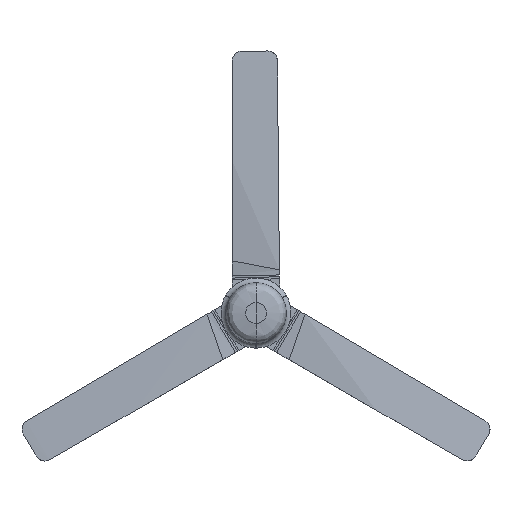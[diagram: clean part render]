
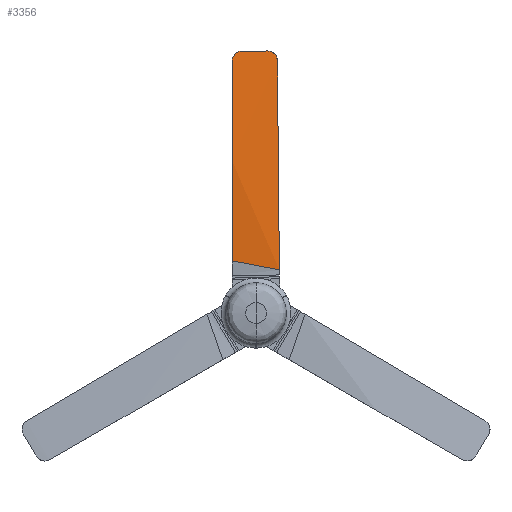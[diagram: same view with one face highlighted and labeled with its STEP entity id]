
A CAD part, top view. The second image highlights one B-rep face of the part: STEP entity #3356.
In plain terms, the highlighted free-form (B-spline) face has degree [3, 1] with [6, 2] control points.
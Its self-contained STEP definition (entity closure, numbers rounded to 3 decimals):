
#428=FACE_OUTER_BOUND('',#620,.T.);
#620=EDGE_LOOP('',(#2609,#2610,#2611,#2612,#2613,#2614));
#1290=B_SPLINE_CURVE_WITH_KNOTS('',3,(#5839,#5840,#5841,#5842,#5843,#5844),
 .UNSPECIFIED.,.F.,.F.,(4,2,4),(0.,50.958,61.887),
 .UNSPECIFIED.);
#1291=B_SPLINE_CURVE_WITH_KNOTS('',3,(#5846,#5847,#5848,#5849,#5850,#5851),
 .UNSPECIFIED.,.F.,.F.,(4,2,4),(-521.247,-260.619,0.),
 .UNSPECIFIED.);
#1292=B_SPLINE_CURVE_WITH_KNOTS('',3,(#5853,#5854,#5855,#5856,#5857,#5858,
#5859,#5860,#5861,#5862),.UNSPECIFIED.,.F.,.F.,(4,2,2,2,4),(0.,8.994,
18.397,27.356,36.792),.UNSPECIFIED.);
#1293=B_SPLINE_CURVE_WITH_KNOTS('',3,(#5864,#5865,#5866,#5867,#5868,#5869),
 .UNSPECIFIED.,.F.,.F.,(4,2,4),(-63.426,-31.713,0.),
 .UNSPECIFIED.);
#1294=B_SPLINE_CURVE_WITH_KNOTS('',3,(#5871,#5872,#5873,#5874,#5875,#5876,
#5877,#5878,#5879,#5880),.UNSPECIFIED.,.F.,.F.,(4,2,2,2,4),(0.,
9.866,19.157,28.795,38.312),
 .UNSPECIFIED.);
#1295=B_SPLINE_CURVE_WITH_KNOTS('',3,(#5881,#5882,#5883,#5884,#5885,#5886,
#5887,#5888,#5889,#5890,#5891,#5892,#5893,#5894,#5895,#5896,#5897,#5898,
#5899,#5900,#5901,#5902),.UNSPECIFIED.,.F.,.F.,(4,3,3,3,3,3,3,4),(-497.537,
-426.498,-349.593,-259.639,-248.773,
-162.589,-74.397,0.),
 .UNSPECIFIED.);
#1501=VERTEX_POINT('',#5837);
#1502=VERTEX_POINT('',#5838);
#1503=VERTEX_POINT('',#5845);
#1504=VERTEX_POINT('',#5852);
#1505=VERTEX_POINT('',#5863);
#1506=VERTEX_POINT('',#5870);
#1902=EDGE_CURVE('',#1501,#1502,#1290,.T.);
#1903=EDGE_CURVE('',#1503,#1501,#1291,.T.);
#1904=EDGE_CURVE('',#1504,#1503,#1292,.T.);
#1905=EDGE_CURVE('',#1505,#1504,#1293,.T.);
#1906=EDGE_CURVE('',#1506,#1505,#1294,.T.);
#1907=EDGE_CURVE('',#1502,#1506,#1295,.T.);
#2609=ORIENTED_EDGE('',*,*,#1902,.F.);
#2610=ORIENTED_EDGE('',*,*,#1903,.F.);
#2611=ORIENTED_EDGE('',*,*,#1904,.F.);
#2612=ORIENTED_EDGE('',*,*,#1905,.F.);
#2613=ORIENTED_EDGE('',*,*,#1906,.F.);
#2614=ORIENTED_EDGE('',*,*,#1907,.F.);
#3278=B_SPLINE_SURFACE_WITH_KNOTS('',3,1,((#5825,#5826),(#5827,#5828),(#5829,
#5830),(#5831,#5832),(#5833,#5834),(#5835,#5836)),.UNSPECIFIED.,.F.,.F.,
 .F.,(4,1,1,4),(2,2),(0.,0.356,0.711,1.),(0.,1.),
 .UNSPECIFIED.);
#3356=ADVANCED_FACE('',(#428),#3278,.T.);
#5825=CARTESIAN_POINT('Ctrl Pts',(-59.549,651.075,164.205));
#5826=CARTESIAN_POINT('Ctrl Pts',(57.998,650.104,146.329));
#5827=CARTESIAN_POINT('Ctrl Pts',(-59.549,589.253,166.648));
#5828=CARTESIAN_POINT('Ctrl Pts',(57.998,585.742,147.841));
#5829=CARTESIAN_POINT('Ctrl Pts',(-59.549,465.504,168.974));
#5830=CARTESIAN_POINT('Ctrl Pts',(57.998,456.996,150.017));
#5831=CARTESIAN_POINT('Ctrl Pts',(-59.549,291.505,165.036));
#5832=CARTESIAN_POINT('Ctrl Pts',(57.998,275.927,150.691));
#5833=CARTESIAN_POINT('Ctrl Pts',(-59.549,179.572,158.294));
#5834=CARTESIAN_POINT('Ctrl Pts',(57.998,159.254,149.733));
#5835=CARTESIAN_POINT('Ctrl Pts',(-59.549,129.466,154.43));
#5836=CARTESIAN_POINT('Ctrl Pts',(57.998,106.959,149.023));
#5837=CARTESIAN_POINT('',(57.998,106.99,149.024));
#5838=CARTESIAN_POINT('',(-59.228,129.405,154.415));
#5839=CARTESIAN_POINT('Ctrl Pts',(57.998,106.99,149.024));
#5840=CARTESIAN_POINT('Ctrl Pts',(41.331,110.181,149.79));
#5841=CARTESIAN_POINT('Ctrl Pts',(17.607,114.722,150.882));
#5842=CARTESIAN_POINT('Ctrl Pts',(-4.52,118.956,151.9));
#5843=CARTESIAN_POINT('Ctrl Pts',(-45.655,126.834,153.793));
#5844=CARTESIAN_POINT('Ctrl Pts',(-59.228,129.405,154.415));
#5845=CARTESIAN_POINT('',(53.055,628.196,147.593));
#5846=CARTESIAN_POINT('Ctrl Pts',(53.055,628.196,147.593));
#5847=CARTESIAN_POINT('Ctrl Pts',(53.879,541.345,149.42));
#5848=CARTESIAN_POINT('Ctrl Pts',(54.703,454.475,150.385));
#5849=CARTESIAN_POINT('Ctrl Pts',(56.35,280.729,150.794));
#5850=CARTESIAN_POINT('Ctrl Pts',(57.174,193.851,150.238));
#5851=CARTESIAN_POINT('Ctrl Pts',(57.998,106.99,149.024));
#5852=CARTESIAN_POINT('',(28.219,650.344,150.858));
#5853=CARTESIAN_POINT('Ctrl Pts',(28.219,650.344,150.858));
#5854=CARTESIAN_POINT('Ctrl Pts',(31.182,650.395,150.405));
#5855=CARTESIAN_POINT('Ctrl Pts',(34.132,649.899,149.97));
#5856=CARTESIAN_POINT('Ctrl Pts',(39.842,647.817,149.154));
#5857=CARTESIAN_POINT('Ctrl Pts',(42.535,646.203,148.784));
#5858=CARTESIAN_POINT('Ctrl Pts',(47.079,642.144,148.188));
#5859=CARTESIAN_POINT('Ctrl Pts',(48.926,639.777,147.962));
#5860=CARTESIAN_POINT('Ctrl Pts',(51.777,634.357,147.651));
#5861=CARTESIAN_POINT('Ctrl Pts',(52.707,631.323,147.576));
#5862=CARTESIAN_POINT('Ctrl Pts',(53.055,628.196,147.593));
#5863=CARTESIAN_POINT('',(-34.482,650.074,160.422));
#5864=CARTESIAN_POINT('Ctrl Pts',(-34.482,650.074,160.422));
#5865=CARTESIAN_POINT('Ctrl Pts',(-24.032,650.119,158.827));
#5866=CARTESIAN_POINT('Ctrl Pts',(-13.582,650.164,157.232));
#5867=CARTESIAN_POINT('Ctrl Pts',(7.318,650.254,154.044));
#5868=CARTESIAN_POINT('Ctrl Pts',(17.769,650.299,152.451));
#5869=CARTESIAN_POINT('Ctrl Pts',(28.219,650.344,150.858));
#5870=CARTESIAN_POINT('',(-59.283,626.359,165.072));
#5871=CARTESIAN_POINT('Ctrl Pts',(-59.283,626.359,165.072));
#5872=CARTESIAN_POINT('Ctrl Pts',(-59.11,629.64,164.934));
#5873=CARTESIAN_POINT('Ctrl Pts',(-58.307,632.853,164.697));
#5874=CARTESIAN_POINT('Ctrl Pts',(-55.607,638.606,164.074));
#5875=CARTESIAN_POINT('Ctrl Pts',(-53.8,641.127,163.704));
#5876=CARTESIAN_POINT('Ctrl Pts',(-49.286,645.451,162.852));
#5877=CARTESIAN_POINT('Ctrl Pts',(-46.589,647.184,162.375));
#5878=CARTESIAN_POINT('Ctrl Pts',(-40.725,649.509,161.394));
#5879=CARTESIAN_POINT('Ctrl Pts',(-37.618,650.093,160.899));
#5880=CARTESIAN_POINT('Ctrl Pts',(-34.482,650.074,160.422));
#5881=CARTESIAN_POINT('Ctrl Pts',(-59.228,129.405,154.415));
#5882=CARTESIAN_POINT('Ctrl Pts',(-59.286,153.016,156.234));
#5883=CARTESIAN_POINT('Ctrl Pts',(-59.337,176.631,157.867));
#5884=CARTESIAN_POINT('Ctrl Pts',(-59.379,200.254,159.314));
#5885=CARTESIAN_POINT('Ctrl Pts',(-59.425,225.827,160.881));
#5886=CARTESIAN_POINT('Ctrl Pts',(-59.462,251.409,162.229));
#5887=CARTESIAN_POINT('Ctrl Pts',(-59.489,277.002,163.358));
#5888=CARTESIAN_POINT('Ctrl Pts',(-59.521,306.939,164.679));
#5889=CARTESIAN_POINT('Ctrl Pts',(-59.54,336.892,165.699));
#5890=CARTESIAN_POINT('Ctrl Pts',(-59.547,366.868,166.417));
#5891=CARTESIAN_POINT('Ctrl Pts',(-59.547,370.489,166.504));
#5892=CARTESIAN_POINT('Ctrl Pts',(-59.548,374.11,166.586));
#5893=CARTESIAN_POINT('Ctrl Pts',(-59.548,377.732,166.664));
#5894=CARTESIAN_POINT('Ctrl Pts',(-59.552,406.457,167.282));
#5895=CARTESIAN_POINT('Ctrl Pts',(-59.543,435.173,167.622));
#5896=CARTESIAN_POINT('Ctrl Pts',(-59.523,463.884,167.685));
#5897=CARTESIAN_POINT('Ctrl Pts',(-59.502,493.263,167.748));
#5898=CARTESIAN_POINT('Ctrl Pts',(-59.469,522.638,167.521));
#5899=CARTESIAN_POINT('Ctrl Pts',(-59.424,552.014,167.003));
#5900=CARTESIAN_POINT('Ctrl Pts',(-59.385,576.794,166.566));
#5901=CARTESIAN_POINT('Ctrl Pts',(-59.338,601.575,165.923));
#5902=CARTESIAN_POINT('Ctrl Pts',(-59.283,626.359,165.072));
